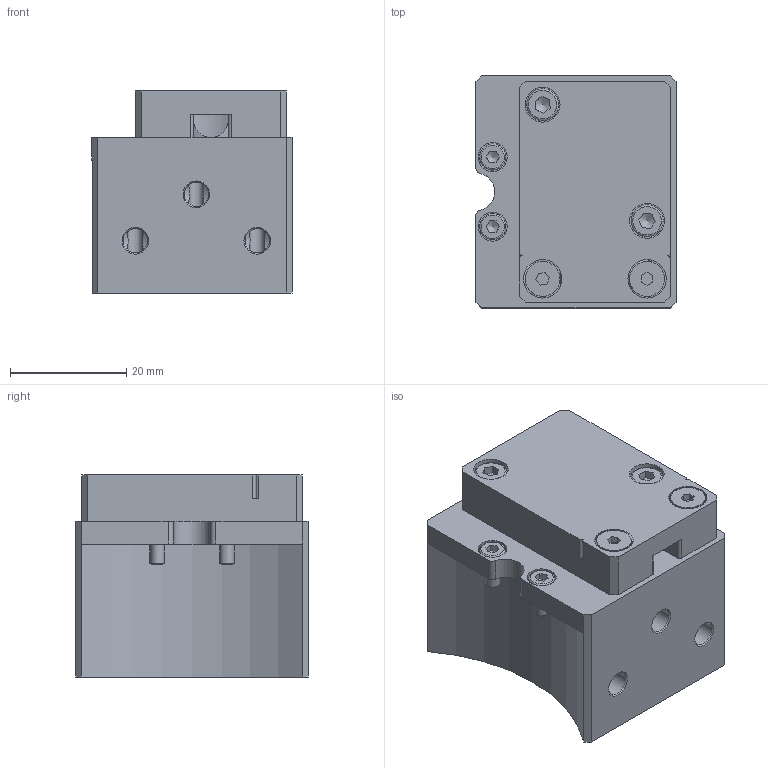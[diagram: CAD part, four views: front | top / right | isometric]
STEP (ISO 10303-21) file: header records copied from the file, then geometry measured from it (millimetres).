
FILE_DESCRIPTION(/* description */ (''),/* implementation_level */ '2;1');
FILE_NAME(/* name */ 'T:\Engineering\Homepage\Homepage 2020\4 3D Step-Daten - Homepage\5 MEK\G-MEK063-O-3PM5-1E12.stp',/* time_stamp */ '2023-01-06T11:55:22+01:00',/* author */ ('ysplieth'),/* organization */ (''),/* preprocessor_version */ 'ST-DEVELOPER v17',/* originating_system */ 'Autodesk Inventor 2018',/* authorisation */ '');
FILE_SCHEMA (('AUTOMOTIVE_DESIGN { 1 0 10303 214 3 1 1 }'));
Length unit declared in the file: millimetre
Products named in the file (1): Bauteil3
Bounding box: 34.5 x 40 x 34.8 mm (x, y, z)
Volume: 32605 mm3; surface area: 15227.9 mm2
Topology: 1 solids, 5 shells, 379 faces, 1093 edges, 725 vertices
Faces by surface type: plane 165, cylinder 129, cone 49, torus 24, sphere 12
Full cylindrical faces by diameter (mm): 1 x12, 1.6 x12, 2 x26, 2.5 x4, 2.6 x1, 2.7 x5, 3 x4, 3.4 x4, 4.2 x3, 4.5 x2, 5 x2, 5.5 x2, 6 x4, 6.3 x3, 14 x1, 15.9 x1, 17 x1, 17.1 x1, 18.2 x1, 23 x2, 25.5 x2
Entity records: 14518 total; most frequent: CARTESIAN_POINT 3872, DIRECTION 2169, ORIENTED_EDGE 2144, EDGE_CURVE 1072, AXIS2_PLACEMENT_3D 835, VERTEX_POINT 725, LINE 499, VECTOR 499
